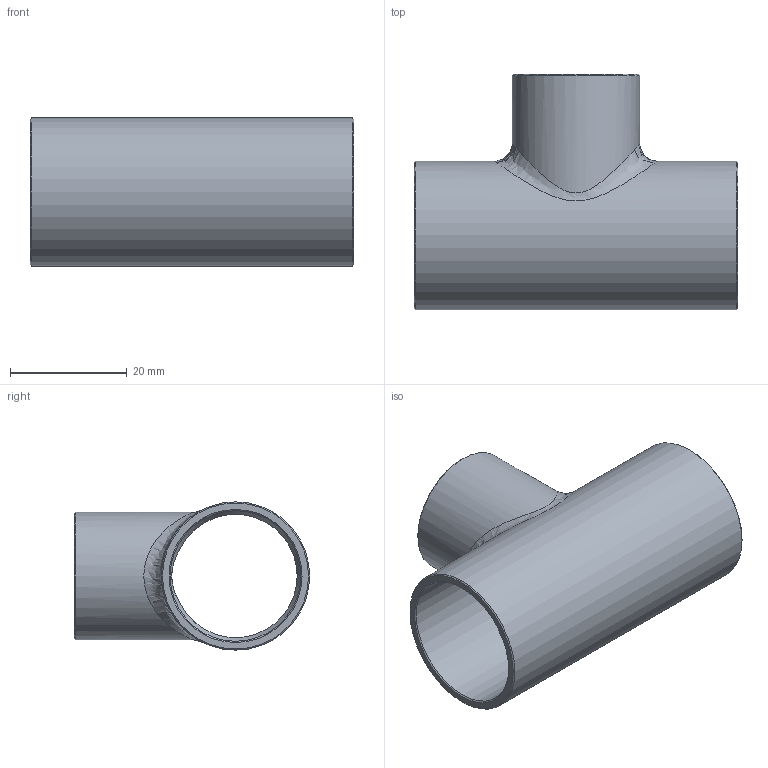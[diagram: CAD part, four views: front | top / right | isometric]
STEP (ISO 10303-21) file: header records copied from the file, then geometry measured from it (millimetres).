
FILE_DESCRIPTION((''),'2;1');
FILE_NAME('G:\SANHA-Ternat\Technik\Management\Bouwmaten + markeringen\z-maattekeningen 3D\29000s\29130783478_3d.stp','2017-08-01T10:46:54',('vdvijverd'),(''),'Autodesk Inventor 2009','Autodesk Inventor 2009','');
FILE_SCHEMA(('AUTOMOTIVE_DESIGN { 1 0 10303 214 1 1 1 1 }'));
Length unit declared in the file: millimetre
Products named in the file (1): 29130783478_3d
Bounding box: 55.4 x 40.3 x 25.4 mm (x, y, z)
Volume: 8171.4 mm3; surface area: 10103.8 mm2
Topology: 1 solids, 1 shells, 22 faces, 56 edges, 35 vertices
Faces by surface type: cone 8, cylinder 7, bspline 4, plane 3
Full cylindrical faces by diameter (mm): 19.17 x1, 21.8 x1, 22.375 x1, 25.4 x1
Entity records: 2115 total; most frequent: CARTESIAN_POINT 1668, DIRECTION 84, ORIENTED_EDGE 70, AXIS2_PLACEMENT_3D 42, EDGE_LOOP 40, EDGE_CURVE 35, VERTEX_POINT 29, CIRCLE 23
